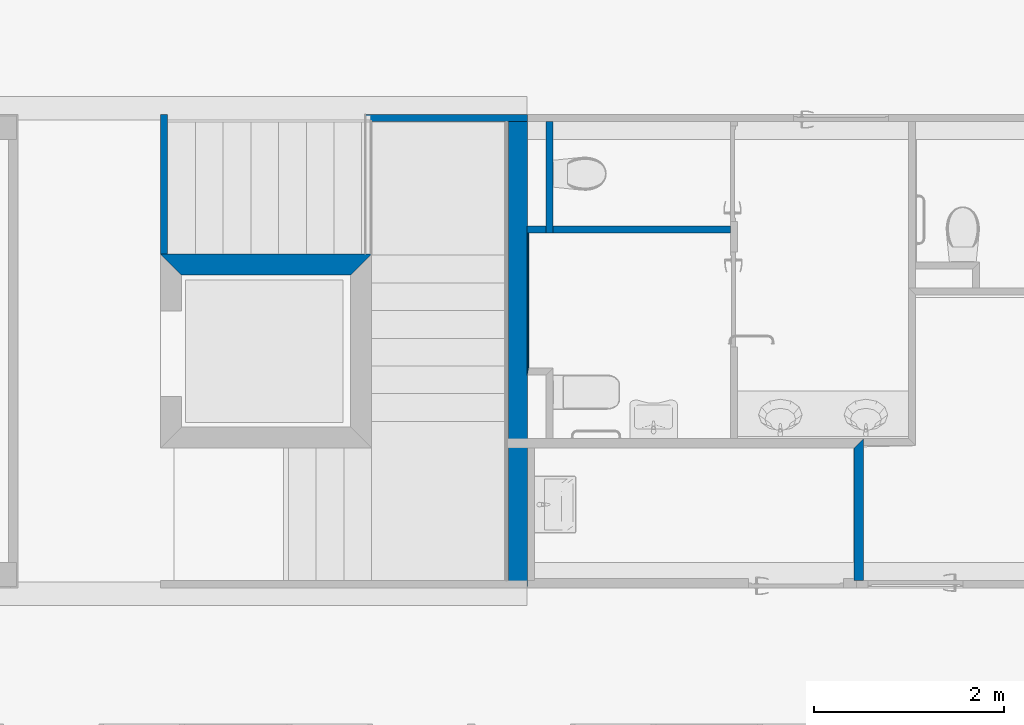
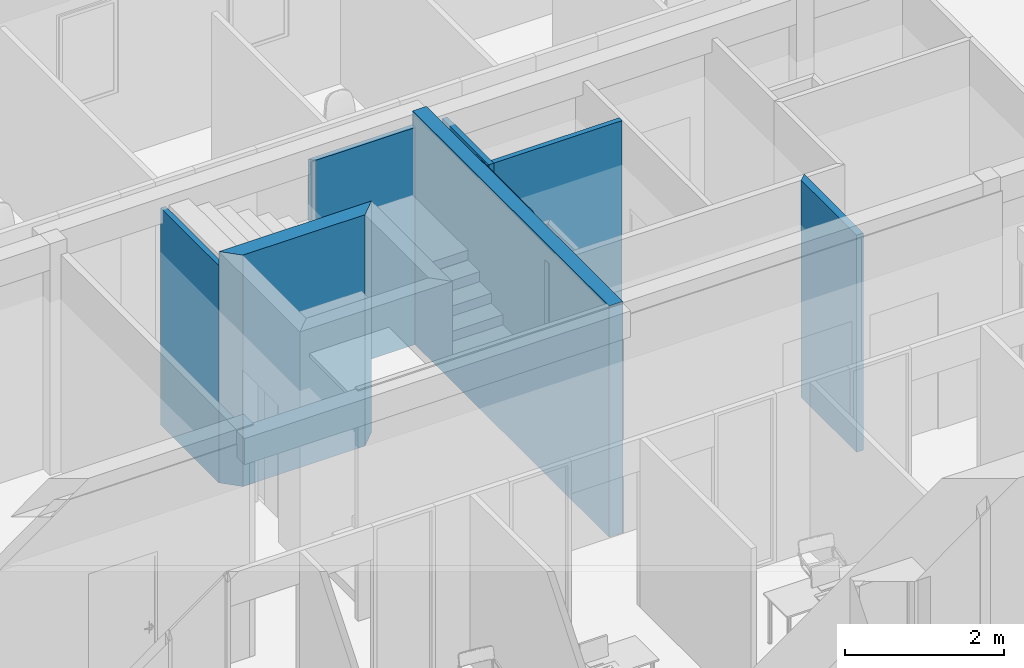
# One storey, part 20 of 91: 8 walls.
"""IFC2X3 building model written with IfcOpenShell, lengths in metres."""

from ifc_helpers import new_model, entity, si_unit, converted_unit, derived_unit, money_unit, direction, frame, origin_with_axes, place, context, subcontext, project, spatial, polyline, outline, extrude, material, layer, layer_set, layer_usage, type_object, element, save


model = new_model("IFC2X3")

# Units and contexts
model_context = context("Model", 3, precision=1e-05, world=origin_with_axes(), true_north=direction((0.0, 1.0)))
body_context = subcontext(model_context, "Body", "Model", "MODEL_VIEW")
ifc_project = project(units=[si_unit("LENGTHUNIT", "METRE"), si_unit("AREAUNIT", "SQUARE_METRE"), si_unit("VOLUMEUNIT", "CUBIC_METRE"), converted_unit("PLANEANGLEUNIT", "DEGREE", entity("IfcPlaneAngleMeasure", 0.0174532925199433), si_unit("PLANEANGLEUNIT", "RADIAN"), dimensions=[0, 0, 0, 0, 0, 0, 0]), money_unit("EUR"), converted_unit("TIMEUNIT", "Year", entity("IfcTimeMeasure", 31557600.0), si_unit("TIMEUNIT", "SECOND"), dimensions=[0, 0, 1, 0, 0, 0, 0]), si_unit("MASSUNIT", "GRAM", prefix="KILO"), si_unit("THERMODYNAMICTEMPERATUREUNIT", "DEGREE_CELSIUS"), si_unit("LUMINOUSINTENSITYUNIT", "LUMEN"), si_unit("ENERGYUNIT", "JOULE", prefix="MEGA"), derived_unit("THERMALCONDUCTANCEUNIT", [(si_unit("POWERUNIT", "WATT"), 1), (si_unit("LENGTHUNIT", "METRE"), -1), (si_unit("THERMODYNAMICTEMPERATUREUNIT", "KELVIN"), -1)]), derived_unit("SPECIFICHEATCAPACITYUNIT", [(si_unit("ENERGYUNIT", "JOULE"), 1), (si_unit("MASSUNIT", "GRAM", prefix="KILO"), -1), (si_unit("THERMODYNAMICTEMPERATUREUNIT", "KELVIN"), -1)]), derived_unit("MASSDENSITYUNIT", [(si_unit("MASSUNIT", "GRAM", prefix="KILO"), 1), (si_unit("VOLUMEUNIT", "CUBIC_METRE"), -1)])], contexts=[model_context])

# Site, building, storey
site_placement = place(None, origin_with_axes())
site = spatial("IfcSite", under=ifc_project, at=site_placement, Name="Site", CompositionType="ELEMENT")
building_placement = place(site_placement, origin_with_axes())
building = spatial("IfcBuilding", under=site, at=building_placement, Name="Bâtiment", CompositionType="ELEMENT")
storey_placement = place(building_placement, origin_with_axes())
storey = spatial("IfcBuildingStorey", under=building, at=storey_placement, Name="RDC", CompositionType="ELEMENT", Elevation=0.0)

# Walls
ifc_material_1 = material(Name="*GENERIQUE - ENDUIT EXT")
ifc_layer_1 = layer(ifc_material_1, 0.02, ventilated="UNKNOWN")
ifc_material_2 = material(Name="*GENERIQUE - MAÇONNERIE")
ifc_layer_2 = layer(ifc_material_2, 0.2, ventilated="UNKNOWN")
ifc_layer_set_1 = layer_set([ifc_layer_1, ifc_layer_2], Name="*Mur ENDUIT 1 face")
ifc_layer_usage_1 = layer_usage(ifc_layer_set_1, "AXIS2", "NEGATIVE", 0.0)
wall_type_1 = type_object("IfcWallType", Name="*Mur ENDUIT 1 face 220", PredefinedType="NOTDEFINED")
wall_1_placement = place(storey_placement, frame((34.19300800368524, -18.08756214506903, 0.0), z_axis=(0.0, 0.0, 1.0), x_axis=(1.0, 0.0, 0.0)))
element("IfcWallStandardCase", 1, at=wall_1_placement, inside=storey, type_object=wall_type_1, material=ifc_layer_usage_1, Name="MC_AGL_Ext-062", context=body_context, shape_type="SweptSolid", body=[
    extrude(outline(polyline([(0.2199999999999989, -0.2199999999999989), (2.0, -0.2199999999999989), (2.219999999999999, 0.0), (0.0, 0.0), (0.2199999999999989, -0.2199999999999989)])), origin_with_axes(), (0.0, 0.0, 1.0), 3.56),
])
ifc_material_3 = material(Name="*PLAQUE DE PLATRE - CLOISON")
ifc_layer_3 = layer(ifc_material_3, 0.026, ventilated="UNKNOWN")
ifc_material_4 = material(Name="*GENERIQUE - ISOLATION INT")
ifc_layer_4 = layer(ifc_material_4, 0.048, ventilated="UNKNOWN")
ifc_layer_5 = layer(ifc_material_3, 0.026, ventilated="UNKNOWN")
ifc_layer_set_2 = layer_set([ifc_layer_3, ifc_layer_4, ifc_layer_5], Name="*Cloison 98")
ifc_layer_usage_2 = layer_usage(ifc_layer_set_2, "AXIS2", "POSITIVE", 0.0)
wall_type_2 = type_object("IfcWallType", Name="*Cloison 98 100", PredefinedType="NOTDEFINED")
wall_2_placement = place(storey_placement, frame((41.58700816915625, -21.59755971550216, 0.0), z_axis=(0.0, 0.0, 1.0), x_axis=(0.0, 1.0, 0.0)))
element("IfcWallStandardCase", 2, at=wall_2_placement, inside=storey, type_object=wall_type_2, material=ifc_layer_usage_2, Name="Cloison ép.10 - CF1h", context=body_context, shape_type="SweptSolid", body=[
    extrude(outline(polyline([(0.07400000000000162, 0.0), (1.568889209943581, 0.0), (1.46888920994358, 0.1000000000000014), (0.07400000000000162, 0.1000000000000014), (0.07400000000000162, 0.0)])), origin_with_axes(), (0.0, 0.0, 1.0), 3.34),
])
ifc_material_5 = material(Name="Finition int - Plaque de plâtre")
ifc_layer_6 = layer(ifc_material_5, 0.013, ventilated="UNKNOWN")
ifc_material_6 = material(Name="Isolation - Laine de verre")
ifc_layer_7 = layer(ifc_material_6, 0.048, ventilated="UNKNOWN")
ifc_layer_8 = layer(ifc_material_5, 0.013, ventilated="UNKNOWN")
ifc_layer_set_3 = layer_set([ifc_layer_6, ifc_layer_7, ifc_layer_8], Name="*Cloison 72")
ifc_layer_usage_3 = layer_usage(ifc_layer_set_3, "AXIS2", "NEGATIVE", 0.0)
wall_type_3 = type_object("IfcWallType", Name="*Cloison 72 74", PredefinedType="NOTDEFINED")
wall_3_placement = place(storey_placement, frame((34.19300800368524, -18.08756214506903, 0.0), z_axis=(0.0, 0.0, 1.0), x_axis=(0.0, 1.0, 0.0)))
element("IfcWallStandardCase", 3, at=wall_3_placement, inside=storey, type_object=wall_type_3, material=ifc_layer_usage_3, Name="Cloisons ép. 72mm", context=body_context, shape_type="SweptSolid", body=[
    extrude(outline(polyline([(0.0, -0.07399999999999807), (1.469999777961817, -0.07399999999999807), (1.469999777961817, 0.0), (0.0, 0.0), (0.0, -0.07399999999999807)])), origin_with_axes(), (0.0, 0.0, 1.0), 3.34),
])
ifc_layer_usage_4 = layer_usage(ifc_layer_set_3, "AXIS2", "NEGATIVE", 0.0)
wall_4_placement = place(storey_placement, frame((38.04800801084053, -17.79156236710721, 0.0), z_axis=(0.0, 0.0, 1.0), x_axis=(1.0, 0.0, 0.0)))
element("IfcWallStandardCase", 4, at=wall_4_placement, inside=storey, type_object=wall_type_3, material=ifc_layer_usage_4, Name="Cloisons ép. 72mm", context=body_context, shape_type="SweptSolid", body=[
    extrude(outline(polyline([(0.0, -0.07400000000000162), (2.140999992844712, -0.07400000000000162), (2.140999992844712, 0.0), (0.0, 0.0), (0.0, -0.07400000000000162)])), origin_with_axes(), (0.0, 0.0, 1.0), 3.34),
])
ifc_layer_usage_5 = layer_usage(ifc_layer_set_3, "AXIS2", "POSITIVE", 0.0)
wall_5_placement = place(storey_placement, frame((38.05300801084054, -16.6175645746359, 0.0), z_axis=(0.0, 0.0, 1.0), x_axis=(-1.0, 0.0, 0.0)))
element("IfcWallStandardCase", 5, at=wall_5_placement, inside=storey, type_object=wall_type_3, material=ifc_layer_usage_5, Name="Cloisons ép. 72mm", context=body_context, shape_type="SweptSolid", body=[
    extrude(outline(polyline([(0.0, 0.0), (1.714000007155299, 0.0), (1.640000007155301, 0.07400000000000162), (0.0, 0.07400000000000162), (0.0, 0.0)])), origin_with_axes(), (0.0, 0.0, 1.0), 3.34),
])
ifc_layer_usage_6 = layer_usage(ifc_layer_set_3, "AXIS2", "NEGATIVE", 0.0)
wall_6_placement = place(storey_placement, frame((38.24800801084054, -17.86556236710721, 0.0), z_axis=(0.0, 0.0, 1.0), x_axis=(0.0, 1.0, 0.0)))
element("IfcWallStandardCase", 6, at=wall_6_placement, inside=storey, type_object=wall_type_3, material=ifc_layer_usage_6, Name="Cloisons ép. 72mm", context=body_context, shape_type="SweptSolid", body=[
    extrude(outline(polyline([(0.0, -0.07399999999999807), (1.173999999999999, -0.07399999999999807), (1.173999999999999, 0.0), (0.0, 0.0), (0.0, -0.07399999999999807)])), origin_with_axes(), (0.0, 0.0, 1.0), 3.34),
])
ifc_layer_9 = layer(ifc_material_3, 0.013, ventilated="UNKNOWN")
ifc_layer_set_4 = layer_set([ifc_layer_9], Name="*PLAQUE DE PLATRE - CLOISON 0.013")
ifc_layer_usage_7 = layer_usage(ifc_layer_set_4, "AXIS2", "NEGATIVE", 0.0)
wall_type_4 = type_object("IfcWallType", Name="*PLAQUE DE PLATRE - CLOISON 13", PredefinedType="NOTDEFINED")
wall_7_placement = place(storey_placement, frame((38.05300801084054, -19.35956236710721, 0.0), z_axis=(0.0, 0.0, 1.0), x_axis=(0.0, 1.0, 0.0)))
element("IfcWallStandardCase", 7, at=wall_7_placement, inside=storey, type_object=wall_type_4, material=ifc_layer_usage_7, Name="Plaque de plâtre collée", context=body_context, shape_type="SweptSolid", body=[
    extrude(outline(polyline([(0.07400000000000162, -0.01299999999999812), (1.494, -0.01299999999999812), (1.494, 0.0), (0.0, 0.0), (0.07400000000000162, -0.01299999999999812)])), origin_with_axes(), (0.0, 0.0, 1.0), 3.56),
])
ifc_layer_10 = layer(ifc_material_2, 0.2, ventilated="UNKNOWN")
ifc_layer_set_5 = layer_set([ifc_layer_10], Name="*GENERIQUE - MAÇONNERIE 0.2")
ifc_layer_usage_8 = layer_usage(ifc_layer_set_5, "AXIS2", "NEGATIVE", 0.1)
wall_type_5 = type_object("IfcWallType", Name="*GENERIQUE - MAÇONNERIE 200", PredefinedType="NOTDEFINED")
wall_8_placement = place(storey_placement, frame((37.95300801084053, -16.63056236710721, 0.0), z_axis=(0.0, 0.0, 1.0), x_axis=(0.0, -1.0, 0.0)))
element("IfcWallStandardCase", 8, at=wall_8_placement, inside=storey, type_object=wall_type_5, material=ifc_layer_usage_8, Name="MC_AGL_Ext-063", context=body_context, shape_type="SweptSolid", body=[
    extrude(outline(polyline([(0.0, -0.1000000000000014), (4.952002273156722, -0.1000000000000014), (4.952002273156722, 0.1000000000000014), (0.0, 0.1000000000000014), (0.0, -0.1000000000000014)])), origin_with_axes(), (0.0, 0.0, 1.0), 3.56),
])

save(model, "model.ifc")
